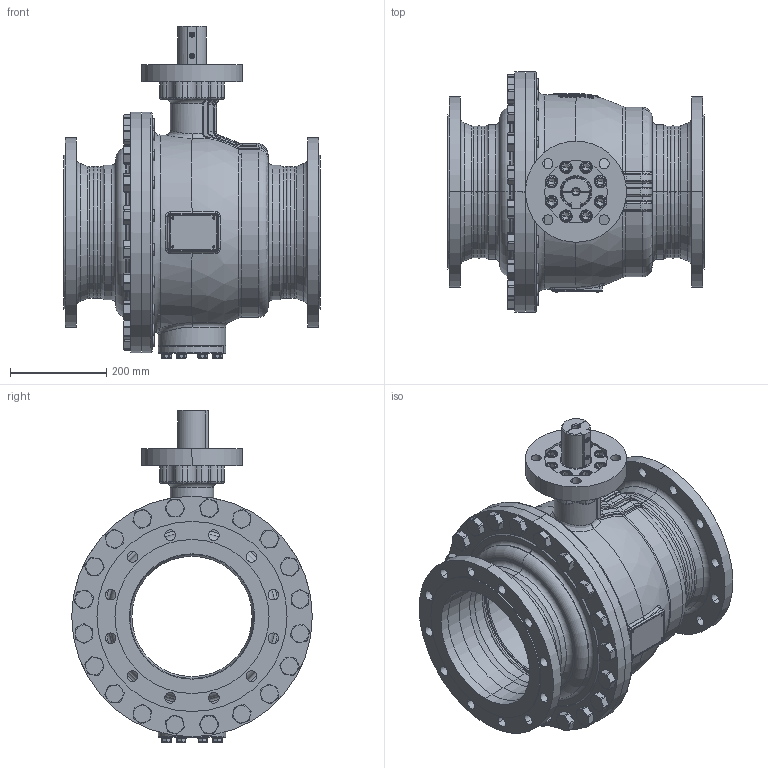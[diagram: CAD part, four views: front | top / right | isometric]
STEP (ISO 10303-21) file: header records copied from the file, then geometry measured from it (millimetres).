
FILE_DESCRIPTION((''),'2;1');
FILE_NAME('KHI-F_250_PN010-F16-P_SW0001','2026-02-05T13:57:28',('fischerkl'),('KLINGER'),'CREO PARAMETRIC BY PTC INC, 2023014','CREO PARAMETRIC BY PTC INC, 2023014','');
FILE_SCHEMA(('CONFIG_CONTROL_DESIGN'));
Products named in the file (1): KHI-F_250_PN010-F16-P_SW0001
Bounding box: 533 x 500 x 689.8 mm (x, y, z)
Volume: 21182031.8 mm3; surface area: 3304328.5 mm2
Topology: 1 solids, 4 shells, 3277 faces, 8305 edges, 5174 vertices
Faces by surface type: plane 1683, cylinder 768, cone 387, torus 312, bspline 97, sphere 30
Entity records: 134218 total; most frequent: CARTESIAN_POINT 56234, ORIENTED_EDGE 16550, DIRECTION 16034, EDGE_CURVE 8275, AXIS2_PLACEMENT_3D 6057, VERTEX_POINT 5174, VECTOR 3920, LINE 3920
